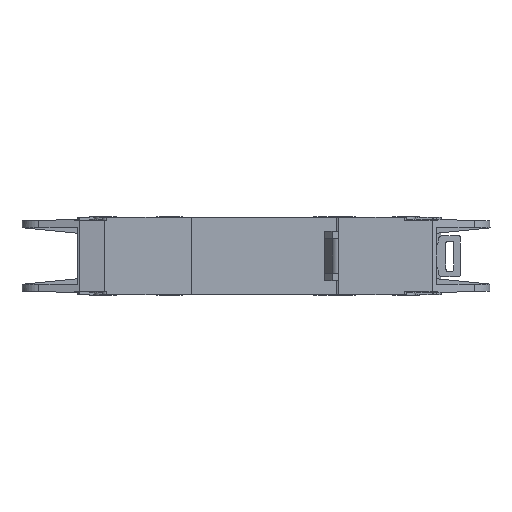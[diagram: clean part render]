
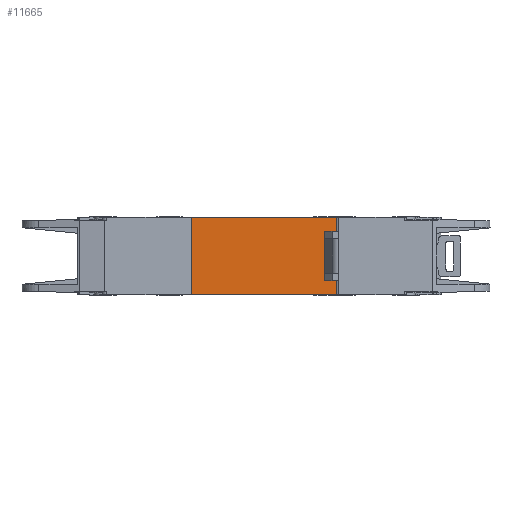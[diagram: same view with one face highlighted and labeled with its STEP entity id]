
A CAD part, front view. The second image highlights one B-rep face of the part: STEP entity #11665.
In plain terms, the highlighted planar face has unit normal (0, -1, 0).
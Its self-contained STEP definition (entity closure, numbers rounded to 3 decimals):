
#215=PLANE('',#12674);
#809=LINE('',#18271,#1940);
#873=LINE('',#18431,#2004);
#1164=LINE('',#19119,#2295);
#1165=LINE('',#19121,#2296);
#1940=VECTOR('',#14278,1000.);
#2004=VECTOR('',#14390,1000.);
#2295=VECTOR('',#14993,1000.);
#2296=VECTOR('',#14996,1000.);
#4482=ORIENTED_EDGE('',*,*,#6996,.T.);
#4483=ORIENTED_EDGE('',*,*,#7435,.F.);
#4484=ORIENTED_EDGE('',*,*,#7078,.F.);
#4485=ORIENTED_EDGE('',*,*,#7434,.T.);
#6996=EDGE_CURVE('',#8614,#8613,#809,.T.);
#7078=EDGE_CURVE('',#8685,#8686,#873,.T.);
#7434=EDGE_CURVE('',#8685,#8614,#1164,.T.);
#7435=EDGE_CURVE('',#8686,#8613,#1165,.T.);
#8613=VERTEX_POINT('',#18270);
#8614=VERTEX_POINT('',#18272);
#8685=VERTEX_POINT('',#18430);
#8686=VERTEX_POINT('',#18432);
#10071=EDGE_LOOP('',(#4482,#4483,#4484,#4485));
#10902=FACE_BOUND('',#10071,.T.);
#11665=ADVANCED_FACE('',(#10902),#215,.F.);
#12674=AXIS2_PLACEMENT_3D('',#19120,#14994,#14995);
#14278=DIRECTION('',(1.,0.,0.));
#14390=DIRECTION('',(1.,0.,0.));
#14993=DIRECTION('',(0.,0.,-1.));
#14994=DIRECTION('',(0.,1.,0.));
#14995=DIRECTION('',(-1.,0.,0.));
#14996=DIRECTION('',(0.,0.,-1.));
#18270=CARTESIAN_POINT('',(58.,5.5,-8.75));
#18271=CARTESIAN_POINT('',(0.,5.5,-8.75));
#18272=CARTESIAN_POINT('',(22.5,5.5,-8.75));
#18430=CARTESIAN_POINT('',(22.5,5.5,8.75));
#18431=CARTESIAN_POINT('',(0.,5.5,8.75));
#18432=CARTESIAN_POINT('',(58.,5.5,8.75));
#19119=CARTESIAN_POINT('',(22.5,5.5,8.75));
#19120=CARTESIAN_POINT('',(0.,5.5,8.75));
#19121=CARTESIAN_POINT('',(58.,5.5,8.75));
